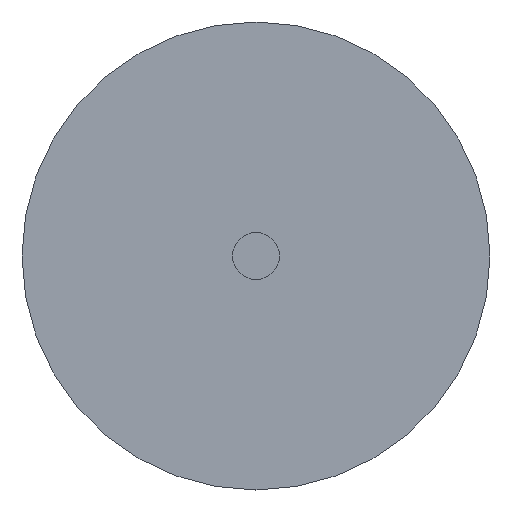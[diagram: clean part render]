
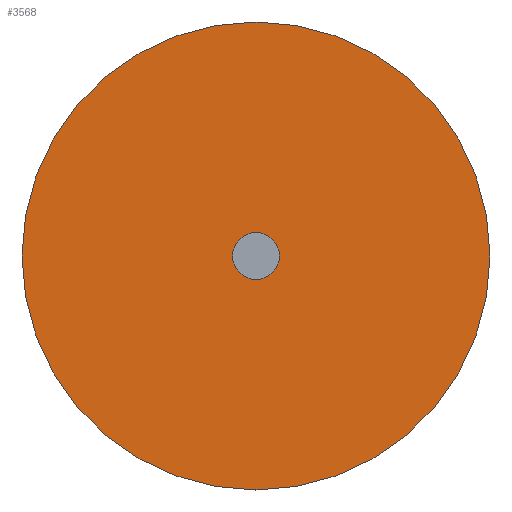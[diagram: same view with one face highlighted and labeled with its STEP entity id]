
A CAD part, front view. The second image highlights one B-rep face of the part: STEP entity #3568.
In plain terms, the highlighted planar face has unit normal (0, -1, 0).
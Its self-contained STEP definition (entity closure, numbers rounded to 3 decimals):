
#3268=CARTESIAN_POINT('',(70.,-21.5,0.));
#3269=VERTEX_POINT('',#3268);
#3285=CARTESIAN_POINT('',(-70.,-21.5,0.));
#3286=VERTEX_POINT('',#3285);
#3293=CARTESIAN_POINT('',(0.0,-21.5,0.));
#3294=DIRECTION('',(0.0,-1.0,0.0));
#3295=DIRECTION('',(1.0,0.0,0.0));
#3296=AXIS2_PLACEMENT_3D('',#3293,#3294,#3295);
#3297=CIRCLE('',#3296,70.);
#3298=EDGE_CURVE('',#3269,#3286,#3297,.T.);
#3360=CARTESIAN_POINT('',(7.,-21.5,0.));
#3361=VERTEX_POINT('',#3360);
#3386=CARTESIAN_POINT('',(-7.,-21.5,0.));
#3387=VERTEX_POINT('',#3386);
#3394=CARTESIAN_POINT('',(0.0,-21.5,0.));
#3395=DIRECTION('',(0.0,-1.0,0.0));
#3396=DIRECTION('',(1.0,0.0,0.0));
#3397=AXIS2_PLACEMENT_3D('',#3394,#3395,#3396);
#3398=CIRCLE('',#3397,7.);
#3399=EDGE_CURVE('',#3387,#3361,#3398,.T.);
#3478=CARTESIAN_POINT('',(0.0,-21.5,0.));
#3479=DIRECTION('',(0.0,-1.0,0.0));
#3480=DIRECTION('',(1.0,0.0,0.0));
#3481=AXIS2_PLACEMENT_3D('',#3478,#3479,#3480);
#3482=CIRCLE('',#3481,7.);
#3483=EDGE_CURVE('',#3361,#3387,#3482,.T.);
#3543=CARTESIAN_POINT('',(0.0,-21.5,0.));
#3544=DIRECTION('',(0.0,-1.0,0.0));
#3545=DIRECTION('',(1.0,0.0,0.0));
#3546=AXIS2_PLACEMENT_3D('',#3543,#3544,#3545);
#3547=CIRCLE('',#3546,70.);
#3548=EDGE_CURVE('',#3286,#3269,#3547,.T.);
#3555=CARTESIAN_POINT('',(38.5,-21.5,0.));
#3556=DIRECTION('',(0.0,-1.0,0.0));
#3557=DIRECTION('',(0.0,0.0,-1.0));
#3558=AXIS2_PLACEMENT_3D('',#3555,#3556,#3557);
#3559=PLANE('',#3558);
#3560=ORIENTED_EDGE('',*,*,#3298,.T.);
#3561=ORIENTED_EDGE('',*,*,#3548,.T.);
#3562=EDGE_LOOP('',(#3560,#3561));
#3563=FACE_OUTER_BOUND('',#3562,.T.);
#3564=ORIENTED_EDGE('',*,*,#3483,.F.);
#3565=ORIENTED_EDGE('',*,*,#3399,.F.);
#3566=EDGE_LOOP('',(#3564,#3565));
#3567=FACE_BOUND('',#3566,.T.);
#3568=ADVANCED_FACE('',(#3563,#3567),#3559,.T.);
